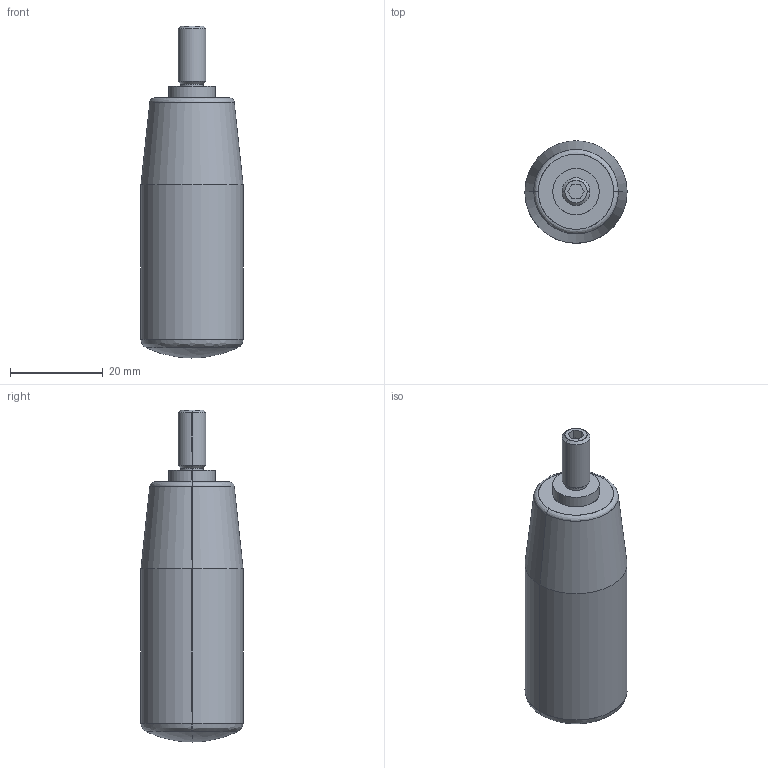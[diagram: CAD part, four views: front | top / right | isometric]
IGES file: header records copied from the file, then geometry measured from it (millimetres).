
Start section: SolidWorks IGES file using analytic representation for surfaces
Global section: file name: C:\HEMSIDA\cad\SLDPRT_2010\gn598\\gn598_56_m6.igs; native system: SolidWorks 2010; preprocessor: SolidWorks 2010; author: Administrator; date: 101001.152007; units: millimetre
Bounding box: 22 x 22 x 71.5 mm (x, y, z)
Surface area: 4536.5 mm2 (no closed solid volume)
Topology: 0 solids, 0 shells, 30 faces, 276 edges, 274 vertices
Faces by surface type: bspline 16, revolution 14
